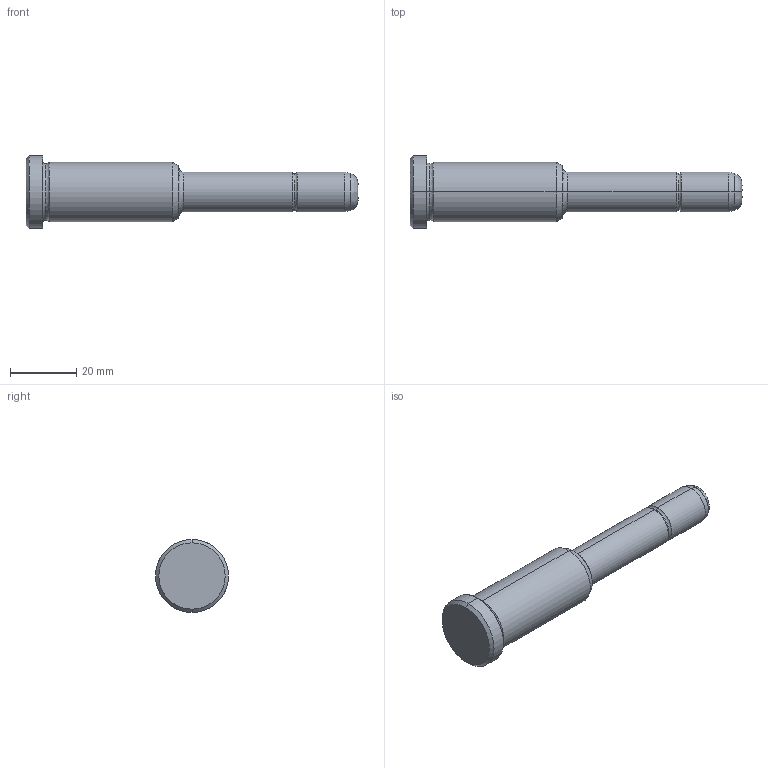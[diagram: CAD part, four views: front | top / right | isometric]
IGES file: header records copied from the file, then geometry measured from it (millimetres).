
Start section: START RECORD GO HERE.
Global section: file name: 351-12X46X100.igs; native system: DASSAULT SYSTEMES CATIA V5 R20 - www.3ds.com; preprocessor: CATIA Version 5 Release 20 ; author: Utente; organization: NB04-ASUS; date: 20210817.151831; units: millimetre
Bounding box: 100 x 22 x 22 mm (x, y, z)
Surface area: 5299.9 mm2 (no closed solid volume)
Topology: 0 solids, 0 shells, 30 faces, 172 edges, 172 vertices
Faces by surface type: revolution 24, plane 4, bspline 2
